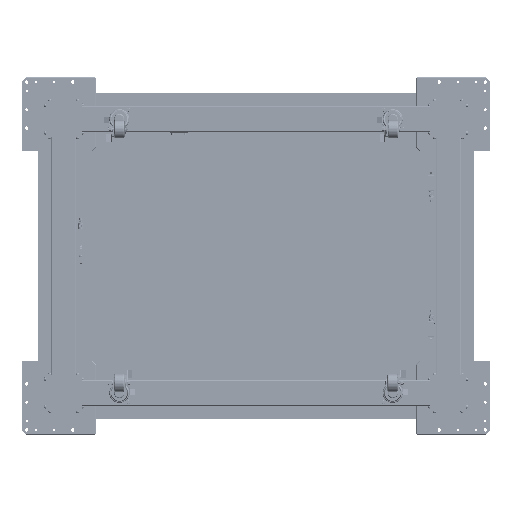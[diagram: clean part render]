
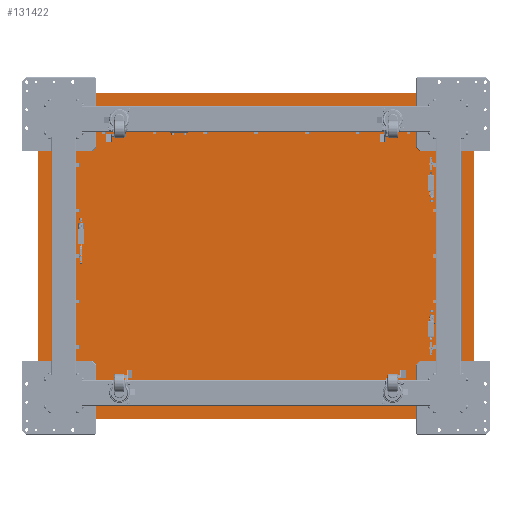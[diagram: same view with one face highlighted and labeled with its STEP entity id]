
A CAD part, front view. The second image highlights one B-rep face of the part: STEP entity #131422.
In plain terms, the highlighted planar face has unit normal (0, -1, 0).
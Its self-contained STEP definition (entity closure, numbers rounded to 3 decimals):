
#7433 = DIRECTION ( 'NONE',  ( -1., 0., 0. ) ) ;
#13449 = CARTESIAN_POINT ( 'NONE',  ( 600., 341.5, 439. ) ) ;
#13889 = CARTESIAN_POINT ( 'NONE',  ( 600., 341.5, -439. ) ) ;
#15341 = VERTEX_POINT ( 'NONE', #138287 ) ;
#19344 = EDGE_CURVE ( 'NONE', #206114, #182321, #149228, .T. ) ;
#22720 = FACE_OUTER_BOUND ( 'NONE', #165864, .T. ) ;
#27838 = CARTESIAN_POINT ( 'NONE',  ( -589., 341.5, 450. ) ) ;
#31644 = CIRCLE ( 'NONE', #193485, 11. ) ;
#32465 = CARTESIAN_POINT ( 'NONE',  ( 589., 341.5, -450. ) ) ;
#33433 = CARTESIAN_POINT ( 'NONE',  ( -589., 341.5, -439. ) ) ;
#38746 = ORIENTED_EDGE ( 'NONE', *, *, #54320, .F. ) ;
#45557 = ORIENTED_EDGE ( 'NONE', *, *, #77509, .F. ) ;
#46903 = DIRECTION ( 'NONE',  ( -1., 0., 0. ) ) ;
#49108 = AXIS2_PLACEMENT_3D ( 'NONE', #167187, #134430, #56214 ) ;
#51878 = DIRECTION ( 'NONE',  ( 0., 0., 1. ) ) ;
#54320 = EDGE_CURVE ( 'NONE', #138588, #115352, #201912, .T. ) ;
#55495 = PLANE ( 'NONE',  #86611 ) ;
#56214 = DIRECTION ( 'NONE',  ( 1., 0., 0. ) ) ;
#57106 = DIRECTION ( 'NONE',  ( 1., 0., 0. ) ) ;
#59325 = ORIENTED_EDGE ( 'NONE', *, *, #117968, .F. ) ;
#71155 = ORIENTED_EDGE ( 'NONE', *, *, #87014, .F. ) ;
#73993 = CARTESIAN_POINT ( 'NONE',  ( -589., 341.5, 450. ) ) ;
#77509 = EDGE_CURVE ( 'NONE', #182321, #15341, #163889, .T. ) ;
#80488 = CARTESIAN_POINT ( 'NONE',  ( -600., 341.5, 439. ) ) ;
#85653 = CARTESIAN_POINT ( 'NONE',  ( -589., 341.5, -450. ) ) ;
#86611 = AXIS2_PLACEMENT_3D ( 'NONE', #153721, #187532, #87177 ) ;
#87014 = EDGE_CURVE ( 'NONE', #182734, #87970, #176865, .T. ) ;
#87177 = DIRECTION ( 'NONE',  ( -1., 0., 0. ) ) ;
#87970 = VERTEX_POINT ( 'NONE', #32465 ) ;
#88752 = LINE ( 'NONE', #85653, #104986 ) ;
#90571 = CARTESIAN_POINT ( 'NONE',  ( -589., 341.5, -450. ) ) ;
#91150 = VECTOR ( 'NONE', #178183, 1000. ) ;
#93635 = DIRECTION ( 'NONE',  ( 0., 1., 0. ) ) ;
#94408 = CARTESIAN_POINT ( 'NONE',  ( -600., 341.5, -439. ) ) ;
#97863 = DIRECTION ( 'NONE',  ( 0., 1., 0. ) ) ;
#99999 = ORIENTED_EDGE ( 'NONE', *, *, #19344, .F. ) ;
#104986 = VECTOR ( 'NONE', #7433, 1000. ) ;
#111341 = VECTOR ( 'NONE', #51878, 1000. ) ;
#112911 = EDGE_CURVE ( 'NONE', #115352, #127571, #207717, .T. ) ;
#115352 = VERTEX_POINT ( 'NONE', #147705 ) ;
#117968 = EDGE_CURVE ( 'NONE', #127571, #182734, #144428, .T. ) ;
#124541 = ORIENTED_EDGE ( 'NONE', *, *, #200138, .F. ) ;
#126814 = VECTOR ( 'NONE', #57106, 1000. ) ;
#127571 = VERTEX_POINT ( 'NONE', #13449 ) ;
#131422 = ADVANCED_FACE ( 'NONE', ( #22720 ), #55495, .T. ) ;
#134430 = DIRECTION ( 'NONE',  ( 0., 1., 0. ) ) ;
#138287 = CARTESIAN_POINT ( 'NONE',  ( -600., 341.5, 439. ) ) ;
#138588 = VERTEX_POINT ( 'NONE', #27838 ) ;
#144428 = LINE ( 'NONE', #208899, #91150 ) ;
#147705 = CARTESIAN_POINT ( 'NONE',  ( 589., 341.5, 450. ) ) ;
#149228 = CIRCLE ( 'NONE', #165968, 11. ) ;
#149862 = AXIS2_PLACEMENT_3D ( 'NONE', #186690, #93635, #171862 ) ;
#153721 = CARTESIAN_POINT ( 'NONE',  ( 589., 341.5, -439. ) ) ;
#162347 = DIRECTION ( 'NONE',  ( -1., 0., 0. ) ) ;
#163053 = EDGE_CURVE ( 'NONE', #15341, #138588, #31644, .T. ) ;
#163889 = LINE ( 'NONE', #80488, #111341 ) ;
#165864 = EDGE_LOOP ( 'NONE', ( #71155, #59325, #192341, #38746, #174640, #45557, #99999, #124541 ) ) ;
#165968 = AXIS2_PLACEMENT_3D ( 'NONE', #33433, #97863, #162347 ) ;
#167187 = CARTESIAN_POINT ( 'NONE',  ( 589., 341.5, 439. ) ) ;
#171862 = DIRECTION ( 'NONE',  ( -1., 0., 0. ) ) ;
#174640 = ORIENTED_EDGE ( 'NONE', *, *, #163053, .F. ) ;
#176865 = CIRCLE ( 'NONE', #149862, 11. ) ;
#178183 = DIRECTION ( 'NONE',  ( 0., 0., -1. ) ) ;
#182321 = VERTEX_POINT ( 'NONE', #94408 ) ;
#182734 = VERTEX_POINT ( 'NONE', #13889 ) ;
#186690 = CARTESIAN_POINT ( 'NONE',  ( 589., 341.5, -439. ) ) ;
#187532 = DIRECTION ( 'NONE',  ( 0., -1., 0. ) ) ;
#191691 = DIRECTION ( 'NONE',  ( 0., 1., 0. ) ) ;
#192341 = ORIENTED_EDGE ( 'NONE', *, *, #112911, .F. ) ;
#193485 = AXIS2_PLACEMENT_3D ( 'NONE', #206563, #191691, #46903 ) ;
#200138 = EDGE_CURVE ( 'NONE', #87970, #206114, #88752, .T. ) ;
#201912 = LINE ( 'NONE', #73993, #126814 ) ;
#206114 = VERTEX_POINT ( 'NONE', #90571 ) ;
#206563 = CARTESIAN_POINT ( 'NONE',  ( -589., 341.5, 439. ) ) ;
#207717 = CIRCLE ( 'NONE', #49108, 11. ) ;
#208899 = CARTESIAN_POINT ( 'NONE',  ( 600., 341.5, 439. ) ) ;
